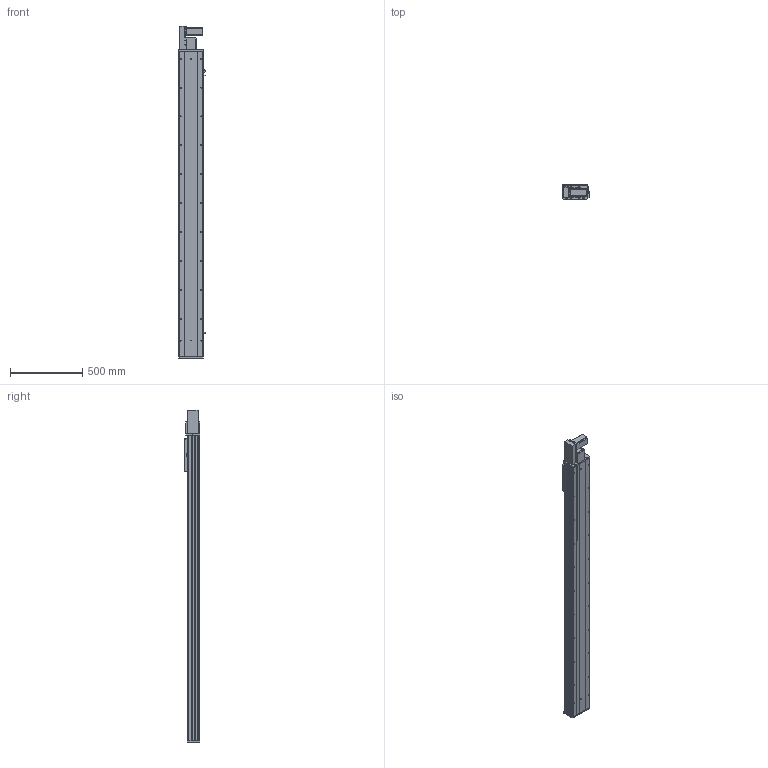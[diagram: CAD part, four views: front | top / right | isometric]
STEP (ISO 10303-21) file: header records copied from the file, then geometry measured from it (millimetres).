
FILE_DESCRIPTION (( 'STEP AP203' ), '1' );
FILE_NAME ('Y170CB-D105-S1800-BL-P400W.STEP', '2020-02-20T01:33:37', ( '微软用户' ), ( '微软中国' ), 'SwSTEP 2.0', 'SolidWorks 2017', '' );
FILE_SCHEMA (( 'CONFIG_CONTROL_DESIGN' ));
Length unit declared in the file: millimetre
Products named in the file (18): Y100-135俋离換覜ん--; 70CB-掛极-; Y170CB-陔俋离換覜結え---; --70CB --喘謫眊楊擘啣-; 70B喘謫眊----; 70CB-耜裔啣-; Y1埴倛裔; 70C--詩湍揤踡え-; B-源倛裔啣; Y170CB-D105-S1800-BL-P400W; 70CB--耜裔; 17B-耜蚾蟀諉啣----; 70C-雄赽釱-奻-; 0B-萇儂楊擘啣; 0C--雄赽釱俋欶-170; san松下电机400不带刹车----; 70CB-詩湍--; Y70俋欶BR----
Assembly tree (21 placements, depth 2):
  Y170CB-D105-S1800-BL-P400W
    B-源倛裔啣
    17B-耜蚾蟀諉啣----
    0B-萇儂楊擘啣
    san松下电机400不带刹车----
    Y70俋欶BR----
    70CB-掛极-
    --70CB --喘謫眊楊擘啣-
    70CB-耜裔啣-  x2
    70C--詩湍揤踡え-  x2
    70CB--耜裔
    70C-雄赽釱-奻-
    0C--雄赽釱俋欶-170
    70CB-詩湍--
    Y100-135俋离換覜ん--  x3
    Y170CB-陔俋离換覜結え---
    70B喘謫眊----
    Y1埴倛裔
Bounding box: 183.5 x 107 x 2297 mm (x, y, z)
Volume: 9687509.8 mm3; surface area: 3488070 mm2
Topology: 21 solids, 21 shells, 1039 faces, 2789 edges, 1850 vertices
Faces by surface type: cylinder 551, plane 464, cone 24
Entity records: 33196 total; most frequent: CARTESIAN_POINT 6096, DIRECTION 5398, ORIENTED_EDGE 5060, EDGE_CURVE 2530, AXIS2_PLACEMENT_3D 1984, VERTEX_POINT 1680, VECTOR 1430, LINE 1430
